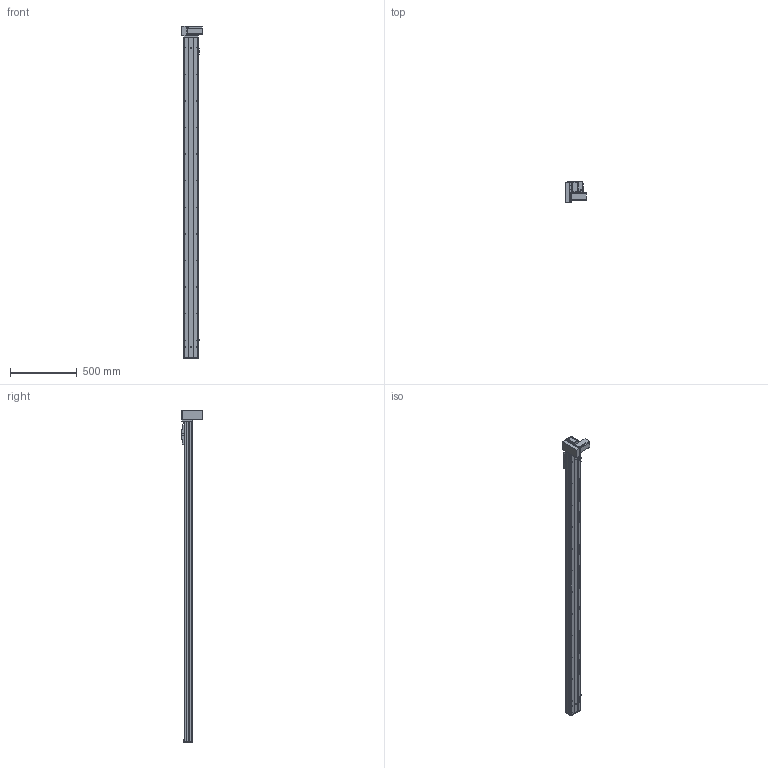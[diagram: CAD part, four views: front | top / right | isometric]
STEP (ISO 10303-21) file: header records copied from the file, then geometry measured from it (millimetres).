
FILE_DESCRIPTION (( 'STEP AP203' ), '1' );
FILE_NAME ('Y10CB-D90-S2150-BM-P400W.STEP', '2020-02-17T02:03:40', ( '微软用户' ), ( '微软中国' ), 'SwSTEP 2.0', 'SolidWorks 2017', '' );
FILE_SCHEMA (( 'CONFIG_CONTROL_DESIGN' ));
Length unit declared in the file: millimetre
Products named in the file (18): 0B-源倛裔啣; Y10B--々湍喘謫眊--666; 0B-埴倛裔啣; 00B-俋欶BM--; 10CB-詩湍-; Y10B-耜蚾蟀諉啣----; Y10CB- 掛极耜裔啣-毀---; 0CB-雄赽釱---; Y10CB-D90-S2150-BM-P400W; Y10C---詩湍揤啣; 0Cb-俋欶---; 10CB9-掛极; Y10B-々湍喘謫眊楊擘啣--; 10CB-耜裔; 0B-萇儂楊擘啣; Y135C-陔俋离換覜結え-; san松下电机400不带刹车----; Y100-135俋离換覜ん--
Assembly tree (21 placements, depth 2):
  Y10CB-D90-S2150-BM-P400W
    0CB-雄赽釱---
    0Cb-俋欶---
    Y10B-々湍喘謫眊楊擘啣--
    0B-萇儂楊擘啣
    san松下电机400不带刹车----
    0B-源倛裔啣
    0B-埴倛裔啣
    10CB-詩湍-
    Y10CB- 掛极耜裔啣-毀---  x2
    Y10C---詩湍揤啣  x2
    10CB9-掛极
    10CB-耜裔
    Y135C-陔俋离換覜結え-
    Y100-135俋离換覜ん--  x3
    Y10B--々湍喘謫眊--666
    00B-俋欶BM--
    Y10B-耜蚾蟀諉啣----
Bounding box: 157 x 156 x 2496 mm (x, y, z)
Volume: 5142496.6 mm3; surface area: 2424066.1 mm2
Topology: 21 solids, 21 shells, 1062 faces, 2883 edges, 1874 vertices
Faces by surface type: cylinder 549, plane 489, cone 24
Entity records: 33912 total; most frequent: CARTESIAN_POINT 6357, DIRECTION 5406, ORIENTED_EDGE 5236, EDGE_CURVE 2618, AXIS2_PLACEMENT_3D 1933, VERTEX_POINT 1700, VECTOR 1540, LINE 1540
